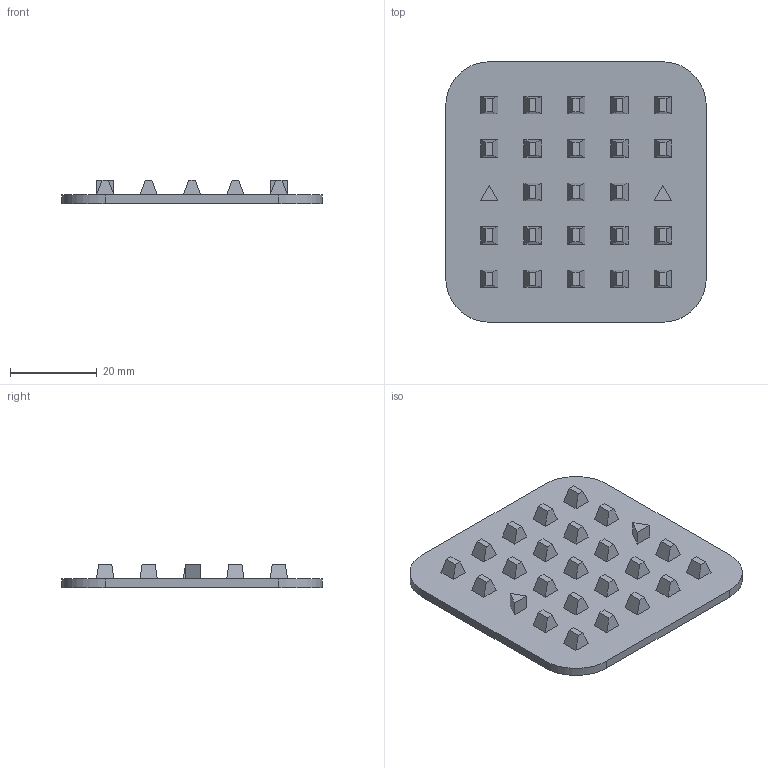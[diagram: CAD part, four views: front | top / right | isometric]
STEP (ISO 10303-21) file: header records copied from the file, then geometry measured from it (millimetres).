
FILE_DESCRIPTION(('CATIA V5 STEP Exchange'),'2;1');
FILE_NAME('C:\Users\zhook\Desktop\stp files\S1-Stencil mold.stp','2023-08-19T19:13:43+00:00',('none'),('none'),'CATIA Version 5 Release 21 GA (IN-10)','CATIA V5 STEP AP203','none');
FILE_SCHEMA(('CONFIG_CONTROL_DESIGN'));
Length unit declared in the file: millimetre
Products named in the file (1): Part2
Bounding box: 60 x 60 x 5.33 mm (x, y, z)
Volume: 7827.6 mm3; surface area: 8288 mm2
Topology: 1 solids, 1 shells, 133 faces, 318 edges, 212 vertices
Faces by surface type: plane 129, cylinder 4
Entity records: 3619 total; most frequent: ORIENTED_EDGE 636, CARTESIAN_POINT 625, DIRECTION 506, EDGE_CURVE 318, VECTOR 310, LINE 310, VERTEX_POINT 212, EDGE_LOOP 158
